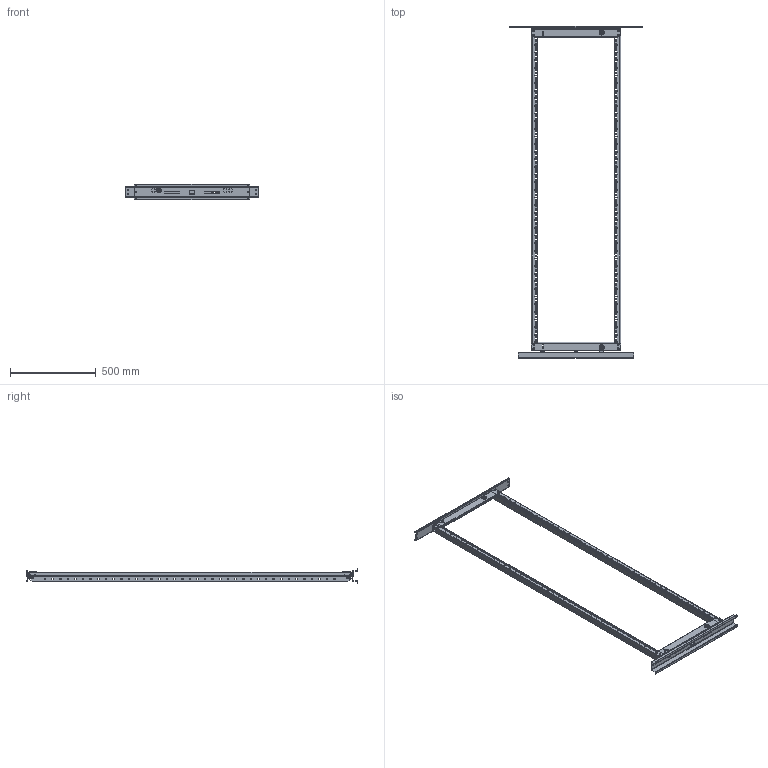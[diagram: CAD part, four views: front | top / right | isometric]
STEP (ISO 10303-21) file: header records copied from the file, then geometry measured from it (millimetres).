
FILE_DESCRIPTION (( 'STEP AP203' ), '1' );
FILE_NAME ('Ðàìà 19 ïîâîðîòíàÿ MC 200.80 IRP.STEP', '2024-02-22T17:59:59', ( '' ), ( '' ), 'SwSTEP 2.0', 'SolidWorks 2022', '' );
FILE_SCHEMA (( 'CONFIG_CONTROL_DESIGN' ));
Length unit declared in the file: millimetre
Products named in the file (18): MC 180 00.003 IRP Профиль вертикальный_MC 200 IRP 00.003 Профиль вертикальный; MC 60 IRP 01.000-01СБ Профиль горизонтальный_MC 80 IRP 01.000-01СБ Профиль горизонтальный; MC 60 IRP 00.001 Балка нижняя_MC 80 IRP 00.001 Балка нижняя; MC R 00.004 Втулка; Гайка квадратная оц. М5 DIN 562; MC 60 IRP 00.002 Балка верхняя_MC 80 IRP 00.002 Балка верхняя; MC 60 IRP 01.001-01 Профиль горизонтальный (MIR)_MC 80 IRP 01.001-01 Профиль горизонтальный (MIR); Демпфер Skiffy 049 1000 000 07; MC 180.60 R 00.01 Ось рамы поворотной; Гайка замка 1000-111-JB; MC 60 IRP 01.001 Профиль горизонтальный_MC 80 IRP 01.001 Профиль горизонтальный; MC 60 IRP 01.000СБ Профиль горизонтальный_MC 80 IRP 01.000СБ Профиль горизонтальный; Шайба 12 Skiffy 003 1215 000 01; MC R 01.002 Скоба; Замок с двойной бородкой 5мм 100-7083_Замок с двойной бородкой 5мм 100-7083; Винт М5х16 DIN 7985_Винт M5x16 DIN 7985; Винт специальный самонарезающий оц. 5,2x11; Рама 19 поворотная MC 200.80 IRP
Assembly tree (33 placements, depth 3):
  Рама 19 поворотная MC 200.80 IRP
    MC 60 IRP 01.000СБ Профиль горизонтальный_MC 80 IRP 01.000СБ Профиль горизонтальный
      MC 60 IRP 01.001 Профиль горизонтальный_MC 80 IRP 01.001 Профиль горизонтальный
      MC R 01.002 Скоба
    MC 60 IRP 01.000-01СБ Профиль горизонтальный_MC 80 IRP 01.000-01СБ Профиль горизонтальный
      MC 60 IRP 01.001-01 Профиль горизонтальный (MIR)_MC 80 IRP 01.001-01 Профиль горизонтальный (MIR)
      MC R 01.002 Скоба
    MC 180 00.003 IRP Профиль вертикальный_MC 200 IRP 00.003 Профиль вертикальный  x2
    MC 60 IRP 00.001 Балка нижняя_MC 80 IRP 00.001 Балка нижняя
    MC 60 IRP 00.002 Балка верхняя_MC 80 IRP 00.002 Балка верхняя
    MC 180.60 R 00.01 Ось рамы поворотной  x2
    MC R 00.004 Втулка  x2
    Шайба 12 Skiffy 003 1215 000 01
    Гайка замка 1000-111-JB  x2
    Замок с двойной бородкой 5мм 100-7083_Замок с двойной бородкой 5мм 100-7083  x2
    Демпфер Skiffy 049 1000 000 07  x2
    Винт специальный самонарезающий оц. 5,2x11  x8
    Винт М5х16 DIN 7985_Винт M5x16 DIN 7985  x2
    Гайка квадратная оц. М5 DIN 562  x2
Bounding box: 771.5 x 1935.5 x 88 mm (x, y, z)
Volume: 1298015.2 mm3; surface area: 1342745.2 mm2
Topology: 37 solids, 37 shells, 4310 faces, 12232 edges, 8006 vertices
Faces by surface type: plane 2118, cylinder 1928, cone 206, bspline 32, torus 18, sphere 8
Entity records: 75541 total; most frequent: CARTESIAN_POINT 13915, DIRECTION 12485, ORIENTED_EDGE 12364, EDGE_CURVE 6182, AXIS2_PLACEMENT_3D 4272, VERTEX_POINT 4049, LINE 3941, VECTOR 3941
